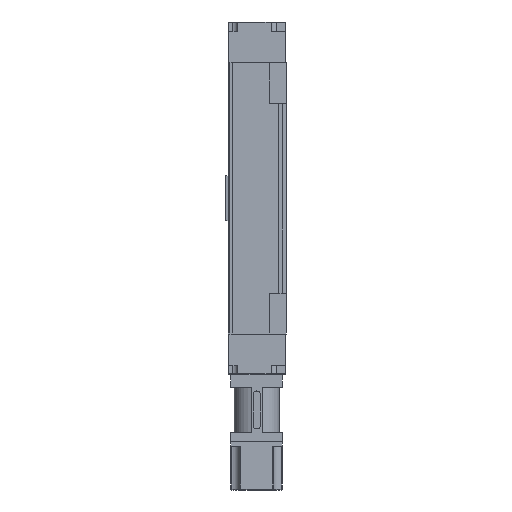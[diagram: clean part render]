
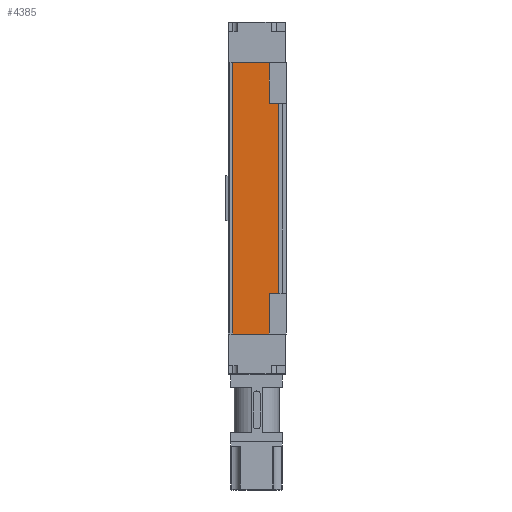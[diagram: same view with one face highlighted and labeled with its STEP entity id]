
A CAD part, left-side view. The second image highlights one B-rep face of the part: STEP entity #4385.
In plain terms, the highlighted planar face has unit normal (-1, 0, 0).
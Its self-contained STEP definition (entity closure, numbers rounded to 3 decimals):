
#4234 = VERTEX_POINT ( 'NONE', #11904 ) ;
#4235 = EDGE_CURVE ( 'NONE', #4234, #4242, #11908, .T. ) ;
#4242 = VERTEX_POINT ( 'NONE', #11907 ) ;
#4385 = ADVANCED_FACE ( 'NONE', ( #12192 ), #12190, .F. ) ;
#4386 = VERTEX_POINT ( 'NONE', #12188 ) ;
#4389 = ORIENTED_EDGE ( 'NONE', *, *, #4449, .F. ) ;
#4393 = ORIENTED_EDGE ( 'NONE', *, *, #4235, .T. ) ;
#4394 = EDGE_LOOP ( 'NONE', ( #4397, #4393, #4389, #4458, #4455, #4439, #4433, #4451 ) ) ;
#4397 = ORIENTED_EDGE ( 'NONE', *, *, #4443, .T. ) ;
#4430 = EDGE_CURVE ( 'NONE', #4432, #4437, #12290, .T. ) ;
#4431 = EDGE_CURVE ( 'NONE', #4434, #4432, #12283, .T. ) ;
#4432 = VERTEX_POINT ( 'NONE', #12235 ) ;
#4433 = ORIENTED_EDGE ( 'NONE', *, *, #4431, .F. ) ;
#4434 = VERTEX_POINT ( 'NONE', #12240 ) ;
#4436 = EDGE_CURVE ( 'NONE', #4444, #4434, #12288, .T. ) ;
#4437 = VERTEX_POINT ( 'NONE', #12279 ) ;
#4438 = EDGE_CURVE ( 'NONE', #4386, #4437, #12273, .T. ) ;
#4439 = ORIENTED_EDGE ( 'NONE', *, *, #4430, .F. ) ;
#4442 = EDGE_CURVE ( 'NONE', #4446, #4386, #12278, .T. ) ;
#4443 = EDGE_CURVE ( 'NONE', #4444, #4234, #12267, .T. ) ;
#4444 = VERTEX_POINT ( 'NONE', #12277 ) ;
#4446 = VERTEX_POINT ( 'NONE', #12268 ) ;
#4449 = EDGE_CURVE ( 'NONE', #4446, #4242, #12317, .T. ) ;
#4451 = ORIENTED_EDGE ( 'NONE', *, *, #4436, .F. ) ;
#4455 = ORIENTED_EDGE ( 'NONE', *, *, #4438, .T. ) ;
#4458 = ORIENTED_EDGE ( 'NONE', *, *, #4442, .T. ) ;
#11890 = DIRECTION ( 'NONE',  ( 0., 0., 1. ) ) ;
#11891 = VECTOR ( 'NONE', #11890, 1000. ) ;
#11892 = CARTESIAN_POINT ( 'NONE',  ( -75., -17.305, 255. ) ) ;
#11904 = CARTESIAN_POINT ( 'NONE',  ( -75., -17.305, 255. ) ) ;
#11907 = CARTESIAN_POINT ( 'NONE',  ( -75., -17.305, 300. ) ) ;
#11908 = LINE ( 'NONE', #11892, #11891 ) ;
#12161 = AXIS2_PLACEMENT_3D ( 'NONE', #12177, #12176, #12175 ) ;
#12175 = DIRECTION ( 'NONE',  ( 0., 0., -1. ) ) ;
#12176 = DIRECTION ( 'NONE',  ( 1., 0., 0. ) ) ;
#12177 = CARTESIAN_POINT ( 'NONE',  ( -75., -36., 300. ) ) ;
#12188 = CARTESIAN_POINT ( 'NONE',  ( -75., 23.2, 0. ) ) ;
#12190 = PLANE ( 'NONE',  #12161 ) ;
#12192 = FACE_OUTER_BOUND ( 'NONE', #4394, .T. ) ;
#12235 = CARTESIAN_POINT ( 'NONE',  ( -75., -17.305, 45. ) ) ;
#12240 = CARTESIAN_POINT ( 'NONE',  ( -75., -26.9, 45. ) ) ;
#12264 = DIRECTION ( 'NONE',  ( 0., 0., -1. ) ) ;
#12265 = VECTOR ( 'NONE', #12264, 1000. ) ;
#12266 = CARTESIAN_POINT ( 'NONE',  ( -75., 23.2, 300. ) ) ;
#12267 = LINE ( 'NONE', #12327, #12326 ) ;
#12268 = CARTESIAN_POINT ( 'NONE',  ( -75., 23.2, 300. ) ) ;
#12269 = DIRECTION ( 'NONE',  ( 0., -1., 0. ) ) ;
#12270 = VECTOR ( 'NONE', #12269, 1000. ) ;
#12272 = CARTESIAN_POINT ( 'NONE',  ( -75., -36., 0. ) ) ;
#12273 = LINE ( 'NONE', #12272, #12270 ) ;
#12274 = DIRECTION ( 'NONE',  ( 0., 0., -1. ) ) ;
#12275 = VECTOR ( 'NONE', #12274, 1000. ) ;
#12276 = CARTESIAN_POINT ( 'NONE',  ( -75., -26.9, 300. ) ) ;
#12277 = CARTESIAN_POINT ( 'NONE',  ( -75., -26.9, 255. ) ) ;
#12278 = LINE ( 'NONE', #12266, #12265 ) ;
#12279 = CARTESIAN_POINT ( 'NONE',  ( -75., -17.305, 0. ) ) ;
#12280 = DIRECTION ( 'NONE',  ( 0., 1., 0. ) ) ;
#12281 = VECTOR ( 'NONE', #12280, 1000. ) ;
#12282 = CARTESIAN_POINT ( 'NONE',  ( -75., -17.305, 45. ) ) ;
#12283 = LINE ( 'NONE', #12282, #12281 ) ;
#12288 = LINE ( 'NONE', #12276, #12275 ) ;
#12289 = CARTESIAN_POINT ( 'NONE',  ( -75., -17.305, 45. ) ) ;
#12290 = LINE ( 'NONE', #12289, #12294 ) ;
#12293 = DIRECTION ( 'NONE',  ( 0., 0., -1. ) ) ;
#12294 = VECTOR ( 'NONE', #12293, 1000. ) ;
#12310 = DIRECTION ( 'NONE',  ( 0., -1., 0. ) ) ;
#12311 = VECTOR ( 'NONE', #12310, 1000. ) ;
#12312 = CARTESIAN_POINT ( 'NONE',  ( -75., -36., 300. ) ) ;
#12317 = LINE ( 'NONE', #12312, #12311 ) ;
#12325 = DIRECTION ( 'NONE',  ( 0., 1., 0. ) ) ;
#12326 = VECTOR ( 'NONE', #12325, 1000. ) ;
#12327 = CARTESIAN_POINT ( 'NONE',  ( -75., -17.305, 255. ) ) ;
